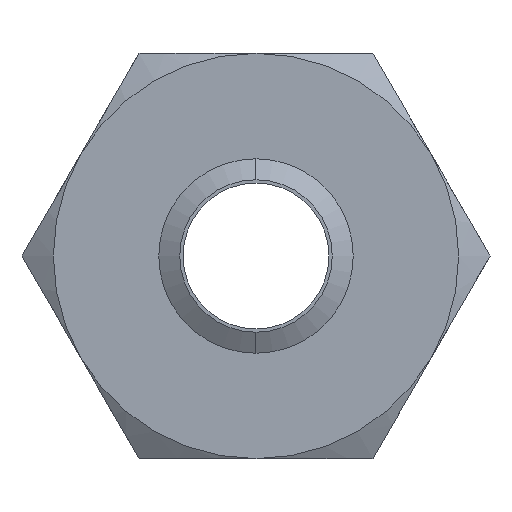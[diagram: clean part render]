
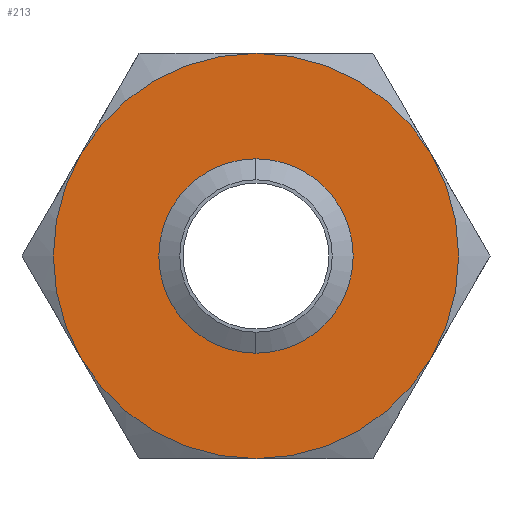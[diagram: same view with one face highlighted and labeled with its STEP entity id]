
A CAD part, front view. The second image highlights one B-rep face of the part: STEP entity #213.
In plain terms, the highlighted planar face has unit normal (0, -1, 0).
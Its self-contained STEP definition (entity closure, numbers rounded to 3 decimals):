
#181 = EDGE_CURVE ( 'NONE', #184, #191, #876, .T. ) ;
#184 = VERTEX_POINT ( 'NONE', #872 ) ;
#185 = ORIENTED_EDGE ( 'NONE', *, *, #181, .F. ) ;
#188 = EDGE_CURVE ( 'NONE', #191, #192, #871, .T. ) ;
#191 = VERTEX_POINT ( 'NONE', #863 ) ;
#192 = VERTEX_POINT ( 'NONE', #859 ) ;
#204 = ORIENTED_EDGE ( 'NONE', *, *, #188, .F. ) ;
#206 = EDGE_LOOP ( 'NONE', ( #204, #185, #351, #338, #334, #315 ) ) ;
#213 = ADVANCED_FACE ( 'NONE', ( #943, #942 ), #941, .F. ) ;
#315 = ORIENTED_EDGE ( 'NONE', *, *, #322, .F. ) ;
#318 = VERTEX_POINT ( 'NONE', #1129 ) ;
#320 = VERTEX_POINT ( 'NONE', #1113 ) ;
#321 = ORIENTED_EDGE ( 'NONE', *, *, #325, .F. ) ;
#322 = EDGE_CURVE ( 'NONE', #192, #320, #1109, .T. ) ;
#323 = EDGE_LOOP ( 'NONE', ( #324, #321 ) ) ;
#324 = ORIENTED_EDGE ( 'NONE', *, *, #1441, .F. ) ;
#325 = EDGE_CURVE ( 'NONE', #1490, #1488, #1103, .T. ) ;
#329 = EDGE_CURVE ( 'NONE', #320, #333, #1158, .T. ) ;
#333 = VERTEX_POINT ( 'NONE', #1148 ) ;
#334 = ORIENTED_EDGE ( 'NONE', *, *, #329, .F. ) ;
#338 = ORIENTED_EDGE ( 'NONE', *, *, #339, .F. ) ;
#339 = EDGE_CURVE ( 'NONE', #333, #318, #1147, .T. ) ;
#351 = ORIENTED_EDGE ( 'NONE', *, *, #470, .F. ) ;
#470 = EDGE_CURVE ( 'NONE', #318, #184, #1401, .T. ) ;
#859 = CARTESIAN_POINT ( 'NONE',  ( 21.651, 0., 12.5 ) ) ;
#863 = CARTESIAN_POINT ( 'NONE',  ( 0., 0., 25. ) ) ;
#867 = DIRECTION ( 'NONE',  ( 0., 0., 1. ) ) ;
#868 = DIRECTION ( 'NONE',  ( 0., 1., 0. ) ) ;
#869 = CARTESIAN_POINT ( 'NONE',  ( 0., 0., 0. ) ) ;
#870 = AXIS2_PLACEMENT_3D ( 'NONE', #869, #868, #867 ) ;
#871 = CIRCLE ( 'NONE', #870, 25. ) ;
#872 = CARTESIAN_POINT ( 'NONE',  ( -21.651, 0., 12.5 ) ) ;
#873 = DIRECTION ( 'NONE',  ( 0., 0., 1. ) ) ;
#874 = DIRECTION ( 'NONE',  ( 0., 1., 0. ) ) ;
#875 = AXIS2_PLACEMENT_3D ( 'NONE', #880, #874, #873 ) ;
#876 = CIRCLE ( 'NONE', #875, 25. ) ;
#880 = CARTESIAN_POINT ( 'NONE',  ( 0., 0., 0. ) ) ;
#936 = DIRECTION ( 'NONE',  ( 0., 0., 1. ) ) ;
#937 = DIRECTION ( 'NONE',  ( 0., 1., 0. ) ) ;
#938 = CARTESIAN_POINT ( 'NONE',  ( 14.434, 0., -25. ) ) ;
#939 = AXIS2_PLACEMENT_3D ( 'NONE', #938, #937, #936 ) ;
#941 = PLANE ( 'NONE',  #939 ) ;
#942 = FACE_BOUND ( 'NONE', #323, .T. ) ;
#943 = FACE_OUTER_BOUND ( 'NONE', #206, .T. ) ;
#1101 = CARTESIAN_POINT ( 'NONE',  ( 0., 0., 0. ) ) ;
#1102 = AXIS2_PLACEMENT_3D ( 'NONE', #1101, #1165, #1164 ) ;
#1103 = CIRCLE ( 'NONE', #1102, 9.402 ) ;
#1105 = DIRECTION ( 'NONE',  ( 0., 0., 1. ) ) ;
#1106 = DIRECTION ( 'NONE',  ( 0., 1., 0. ) ) ;
#1107 = CARTESIAN_POINT ( 'NONE',  ( 0., 0., 0. ) ) ;
#1108 = AXIS2_PLACEMENT_3D ( 'NONE', #1107, #1106, #1105 ) ;
#1109 = CIRCLE ( 'NONE', #1108, 25. ) ;
#1113 = CARTESIAN_POINT ( 'NONE',  ( 21.651, 0., -12.5 ) ) ;
#1129 = CARTESIAN_POINT ( 'NONE',  ( -21.651, 0., -12.5 ) ) ;
#1143 = DIRECTION ( 'NONE',  ( 0., 0., 1. ) ) ;
#1144 = DIRECTION ( 'NONE',  ( 0., 1., 0. ) ) ;
#1145 = CARTESIAN_POINT ( 'NONE',  ( 0., 0., 0. ) ) ;
#1146 = AXIS2_PLACEMENT_3D ( 'NONE', #1145, #1144, #1143 ) ;
#1147 = CIRCLE ( 'NONE', #1146, 25. ) ;
#1148 = CARTESIAN_POINT ( 'NONE',  ( 0., 0., -25. ) ) ;
#1154 = DIRECTION ( 'NONE',  ( 0., 0., 1. ) ) ;
#1155 = DIRECTION ( 'NONE',  ( 0., 1., 0. ) ) ;
#1156 = CARTESIAN_POINT ( 'NONE',  ( 0., 0., 0. ) ) ;
#1157 = AXIS2_PLACEMENT_3D ( 'NONE', #1156, #1155, #1154 ) ;
#1158 = CIRCLE ( 'NONE', #1157, 25. ) ;
#1164 = DIRECTION ( 'NONE',  ( 0., 0., -1. ) ) ;
#1165 = DIRECTION ( 'NONE',  ( 0., -1., 0. ) ) ;
#1397 = DIRECTION ( 'NONE',  ( 0., 0., 1. ) ) ;
#1398 = DIRECTION ( 'NONE',  ( 0., 1., 0. ) ) ;
#1399 = CARTESIAN_POINT ( 'NONE',  ( 0., 0., 0. ) ) ;
#1400 = AXIS2_PLACEMENT_3D ( 'NONE', #1399, #1398, #1397 ) ;
#1401 = CIRCLE ( 'NONE', #1400, 25. ) ;
#1424 = DIRECTION ( 'NONE',  ( 0., 0., -1. ) ) ;
#1425 = DIRECTION ( 'NONE',  ( 0., -1., 0. ) ) ;
#1426 = CARTESIAN_POINT ( 'NONE',  ( 0., 0., 0. ) ) ;
#1427 = AXIS2_PLACEMENT_3D ( 'NONE', #1426, #1425, #1424 ) ;
#1428 = CIRCLE ( 'NONE', #1427, 9.402 ) ;
#1441 = EDGE_CURVE ( 'NONE', #1488, #1490, #1428, .T. ) ;
#1488 = VERTEX_POINT ( 'NONE', #1579 ) ;
#1490 = VERTEX_POINT ( 'NONE', #1577 ) ;
#1577 = CARTESIAN_POINT ( 'NONE',  ( 0., 0., 9.402 ) ) ;
#1579 = CARTESIAN_POINT ( 'NONE',  ( 0., 0., -9.402 ) ) ;
